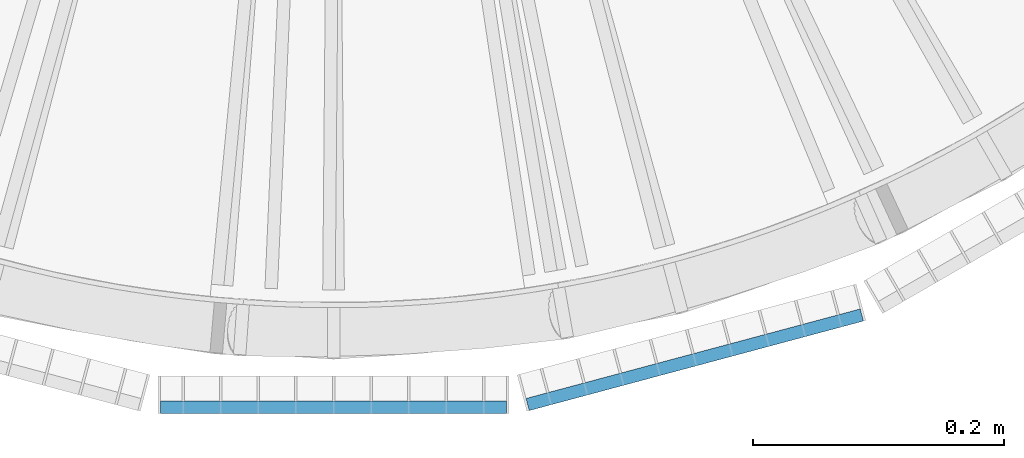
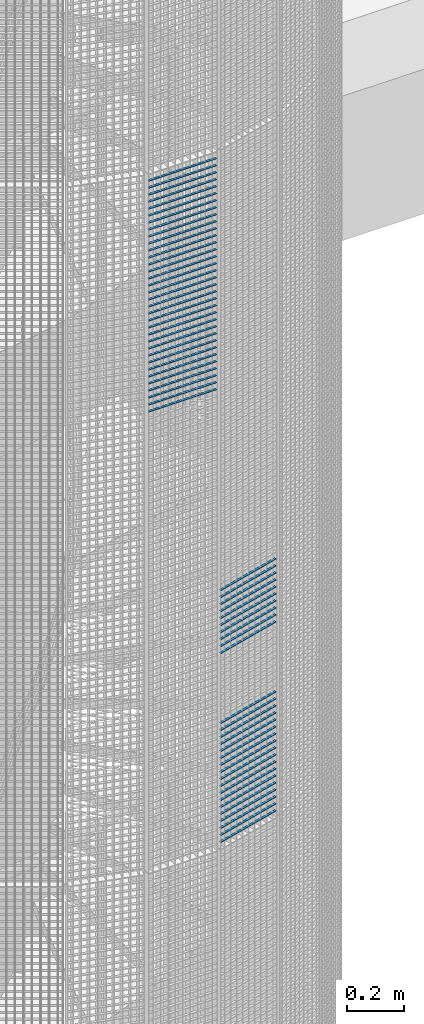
# One storey, part 156 of 1183: 62 beams, 2 elements without a shape of their own.
"""IFC2X3 building model written with IfcOpenShell, lengths in millimetres."""

from ifc_helpers import new_model, si_unit, frame, origin_with_axes, origin_2d_with_axis, place, context, subcontext, project, spatial, rectangle, extrude, material, type_object, element, aggregate, save


model = new_model("IFC2X3")

# Units and contexts
model_context = context("Model", 3, precision=1e-05, world=origin_with_axes())
body_context = subcontext(model_context, "Body", "Model", "MODEL_VIEW")
ifc_project = project(units=[si_unit("LENGTHUNIT", "METRE", prefix="MILLI"), si_unit("AREAUNIT", "SQUARE_METRE"), si_unit("VOLUMEUNIT", "CUBIC_METRE"), si_unit("MASSUNIT", "GRAM", prefix="KILO"), si_unit("TIMEUNIT", "SECOND"), si_unit("PLANEANGLEUNIT", "RADIAN"), si_unit("SOLIDANGLEUNIT", "STERADIAN"), si_unit("THERMODYNAMICTEMPERATUREUNIT", "DEGREE_CELSIUS"), si_unit("LUMINOUSINTENSITYUNIT", "LUMEN")], contexts=[model_context])

# Site, building, storey
site_placement = place(None, origin_with_axes())
site = spatial("IfcSite", under=ifc_project, at=site_placement, Name="Undefined", CompositionType="ELEMENT")
building_placement = place(site_placement, origin_with_axes())
building = spatial("IfcBuilding", under=site, at=building_placement, Name="Undefined", CompositionType="ELEMENT")
storey_placement = place(building_placement, origin_with_axes())
storey = spatial("IfcBuildingStorey", under=building, at=storey_placement, Name="Undefined", CompositionType="ELEMENT", Elevation=0.0)

# Assembly, beams
assembly_1_placement = place(storey_placement, origin_with_axes())
assembly_1 = element("IfcElementAssembly", 1, at=assembly_1_placement, inside=storey, Name="BORDURE", AssemblyPlace="NOTDEFINED", PredefinedType="NOTDEFINED")
ifc_material = material(Name="STEEL/S235JR")
beam_type = type_object("IfcBeamType", Name="PL2*10", PredefinedType="NOTDEFINED")
beam_1_placement = place(assembly_1_placement, frame((154.895926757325, -1111.25508286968, 6540.0), z_axis=(0.258819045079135, -0.965925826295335, 0.0), x_axis=(0.965925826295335, 0.258819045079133, 0.0)))
beam_1 = element("IfcBeam", 2, at=beam_1_placement, type_object=beam_type, material=ifc_material, Name="ENTRETOISE", context=body_context, shape_type="SweptSolid", body=[
    extrude(rectangle(XDim=2.0, YDim=10.0, at=origin_2d_with_axis()), frame((275.999999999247, 9.09494701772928e-13, 1.53210777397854e-14), z_axis=(-1.0, 0.0, 0.0), x_axis=(0.0, -1.0, 0.0)), (0.0, 0.0, 1.0), 276.0),
])
beam_2_placement = place(assembly_1_placement, frame((154.895926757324, -1111.25508286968, 6840.0), z_axis=(0.258819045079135, -0.965925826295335, 0.0), x_axis=(0.965925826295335, 0.258819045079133, 0.0)))
beam_2 = element("IfcBeam", 3, at=beam_2_placement, type_object=beam_type, material=ifc_material, Name="ENTRETOISE", context=body_context, shape_type="SweptSolid", body=[
    extrude(rectangle(XDim=2.0, YDim=10.0, at=origin_2d_with_axis()), frame((275.999999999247, 9.09494701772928e-13, 1.53210777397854e-14), z_axis=(-1.0, 0.0, 0.0), x_axis=(0.0, -1.0, 0.0)), (0.0, 0.0, 1.0), 276.0),
])
beam_3_placement = place(assembly_1_placement, frame((154.895926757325, -1111.25508286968, 6510.0), z_axis=(0.258819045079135, -0.965925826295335, 0.0), x_axis=(0.965925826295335, 0.258819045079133, 0.0)))
beam_3 = element("IfcBeam", 4, at=beam_3_placement, type_object=beam_type, material=ifc_material, Name="ENTRETOISE", context=body_context, shape_type="SweptSolid", body=[
    extrude(rectangle(XDim=2.0, YDim=10.0, at=origin_2d_with_axis()), frame((275.999999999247, 9.09494701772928e-13, 1.53210777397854e-14), z_axis=(-1.0, 0.0, 0.0), x_axis=(0.0, -1.0, 0.0)), (0.0, 0.0, 1.0), 276.0),
])
beam_4_placement = place(assembly_1_placement, frame((154.895926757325, -1111.25508286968, 6480.0), z_axis=(0.258819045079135, -0.965925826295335, 0.0), x_axis=(0.965925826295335, 0.258819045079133, 0.0)))
beam_4 = element("IfcBeam", 5, at=beam_4_placement, type_object=beam_type, material=ifc_material, Name="ENTRETOISE", context=body_context, shape_type="SweptSolid", body=[
    extrude(rectangle(XDim=2.0, YDim=10.0, at=origin_2d_with_axis()), frame((275.999999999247, 9.09494701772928e-13, 1.53210777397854e-14), z_axis=(-1.0, 0.0, 0.0), x_axis=(0.0, -1.0, 0.0)), (0.0, 0.0, 1.0), 276.0),
])
beam_5_placement = place(assembly_1_placement, frame((154.895926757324, -1111.25508286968, 6870.0), z_axis=(0.258819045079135, -0.965925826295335, 0.0), x_axis=(0.965925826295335, 0.258819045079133, 0.0)))
beam_5 = element("IfcBeam", 6, at=beam_5_placement, type_object=beam_type, material=ifc_material, Name="ENTRETOISE", context=body_context, shape_type="SweptSolid", body=[
    extrude(rectangle(XDim=2.0, YDim=10.0, at=origin_2d_with_axis()), frame((275.999999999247, 9.09494701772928e-13, 1.53210777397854e-14), z_axis=(-1.0, 0.0, 0.0), x_axis=(0.0, -1.0, 0.0)), (0.0, 0.0, 1.0), 276.0),
])
beam_6_placement = place(assembly_1_placement, frame((154.895926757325, -1111.25508286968, 6450.0), z_axis=(0.258819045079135, -0.965925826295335, 0.0), x_axis=(0.965925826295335, 0.258819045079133, 0.0)))
beam_6 = element("IfcBeam", 7, at=beam_6_placement, type_object=beam_type, material=ifc_material, Name="ENTRETOISE", context=body_context, shape_type="SweptSolid", body=[
    extrude(rectangle(XDim=2.0, YDim=10.0, at=origin_2d_with_axis()), frame((275.999999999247, 9.09494701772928e-13, 1.53210777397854e-14), z_axis=(-1.0, 0.0, 0.0), x_axis=(0.0, -1.0, 0.0)), (0.0, 0.0, 1.0), 276.0),
])
beam_7_placement = place(assembly_1_placement, frame((154.895926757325, -1111.25508286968, 6420.0), z_axis=(0.258819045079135, -0.965925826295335, 0.0), x_axis=(0.965925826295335, 0.258819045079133, 0.0)))
beam_7 = element("IfcBeam", 8, at=beam_7_placement, type_object=beam_type, material=ifc_material, Name="ENTRETOISE", context=body_context, shape_type="SweptSolid", body=[
    extrude(rectangle(XDim=2.0, YDim=10.0, at=origin_2d_with_axis()), frame((275.999999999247, 9.09494701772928e-13, 1.53210777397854e-14), z_axis=(-1.0, 0.0, 0.0), x_axis=(0.0, -1.0, 0.0)), (0.0, 0.0, 1.0), 276.0),
])
beam_8_placement = place(assembly_1_placement, frame((154.895926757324, -1111.25508286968, 6900.0), z_axis=(0.258819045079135, -0.965925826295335, 0.0), x_axis=(0.965925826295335, 0.258819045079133, 0.0)))
beam_8 = element("IfcBeam", 9, at=beam_8_placement, type_object=beam_type, material=ifc_material, Name="ENTRETOISE", context=body_context, shape_type="SweptSolid", body=[
    extrude(rectangle(XDim=2.0, YDim=10.0, at=origin_2d_with_axis()), frame((275.999999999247, 9.09494701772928e-13, 1.53210777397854e-14), z_axis=(-1.0, 0.0, 0.0), x_axis=(0.0, -1.0, 0.0)), (0.0, 0.0, 1.0), 276.0),
])
beam_9_placement = place(assembly_1_placement, frame((154.895926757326, -1111.25508286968, 6390.0), z_axis=(0.258819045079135, -0.965925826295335, 0.0), x_axis=(0.965925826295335, 0.258819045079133, 0.0)))
beam_9 = element("IfcBeam", 10, at=beam_9_placement, type_object=beam_type, material=ifc_material, Name="ENTRETOISE", context=body_context, shape_type="SweptSolid", body=[
    extrude(rectangle(XDim=2.0, YDim=10.0, at=origin_2d_with_axis()), frame((275.999999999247, 9.09494701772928e-13, 1.53210777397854e-14), z_axis=(-1.0, 0.0, 0.0), x_axis=(0.0, -1.0, 0.0)), (0.0, 0.0, 1.0), 276.0),
])
beam_10_placement = place(assembly_1_placement, frame((154.895926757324, -1111.25508286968, 6930.0), z_axis=(0.258819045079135, -0.965925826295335, 0.0), x_axis=(0.965925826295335, 0.258819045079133, 0.0)))
beam_10 = element("IfcBeam", 11, at=beam_10_placement, type_object=beam_type, material=ifc_material, Name="ENTRETOISE", context=body_context, shape_type="SweptSolid", body=[
    extrude(rectangle(XDim=2.0, YDim=10.0, at=origin_2d_with_axis()), frame((275.999999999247, 9.09494701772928e-13, 1.53210777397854e-14), z_axis=(-1.0, 0.0, 0.0), x_axis=(0.0, -1.0, 0.0)), (0.0, 0.0, 1.0), 276.0),
])
beam_11_placement = place(assembly_1_placement, frame((154.895926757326, -1111.25508286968, 6360.0), z_axis=(0.258819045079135, -0.965925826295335, 0.0), x_axis=(0.965925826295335, 0.258819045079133, 0.0)))
beam_11 = element("IfcBeam", 12, at=beam_11_placement, type_object=beam_type, material=ifc_material, Name="ENTRETOISE", context=body_context, shape_type="SweptSolid", body=[
    extrude(rectangle(XDim=2.0, YDim=10.0, at=origin_2d_with_axis()), frame((275.999999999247, 9.09494701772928e-13, 1.53210777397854e-14), z_axis=(-1.0, 0.0, 0.0), x_axis=(0.0, -1.0, 0.0)), (0.0, 0.0, 1.0), 276.0),
])
beam_12_placement = place(assembly_1_placement, frame((154.895926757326, -1111.25508286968, 6330.0), z_axis=(0.258819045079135, -0.965925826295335, 0.0), x_axis=(0.965925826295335, 0.258819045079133, 0.0)))
beam_12 = element("IfcBeam", 13, at=beam_12_placement, type_object=beam_type, material=ifc_material, Name="ENTRETOISE", context=body_context, shape_type="SweptSolid", body=[
    extrude(rectangle(XDim=2.0, YDim=10.0, at=origin_2d_with_axis()), frame((275.999999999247, 9.09494701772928e-13, 1.53210777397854e-14), z_axis=(-1.0, 0.0, 0.0), x_axis=(0.0, -1.0, 0.0)), (0.0, 0.0, 1.0), 276.0),
])
beam_13_placement = place(assembly_1_placement, frame((154.895926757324, -1111.25508286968, 6960.0), z_axis=(0.258819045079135, -0.965925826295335, 0.0), x_axis=(0.965925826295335, 0.258819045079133, 0.0)))
beam_13 = element("IfcBeam", 14, at=beam_13_placement, type_object=beam_type, material=ifc_material, Name="ENTRETOISE", context=body_context, shape_type="SweptSolid", body=[
    extrude(rectangle(XDim=2.0, YDim=10.0, at=origin_2d_with_axis()), frame((275.999999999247, 9.09494701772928e-13, 1.53210777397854e-14), z_axis=(-1.0, 0.0, 0.0), x_axis=(0.0, -1.0, 0.0)), (0.0, 0.0, 1.0), 276.0),
])
beam_14_placement = place(assembly_1_placement, frame((154.895926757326, -1111.25508286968, 6300.0), z_axis=(0.258819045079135, -0.965925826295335, 0.0), x_axis=(0.965925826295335, 0.258819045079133, 0.0)))
beam_14 = element("IfcBeam", 15, at=beam_14_placement, type_object=beam_type, material=ifc_material, Name="ENTRETOISE", context=body_context, shape_type="SweptSolid", body=[
    extrude(rectangle(XDim=2.0, YDim=10.0, at=origin_2d_with_axis()), frame((275.999999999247, 9.09494701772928e-13, 1.53210777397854e-14), z_axis=(-1.0, 0.0, 0.0), x_axis=(0.0, -1.0, 0.0)), (0.0, 0.0, 1.0), 276.0),
])
beam_15_placement = place(assembly_1_placement, frame((154.895926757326, -1111.25508286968, 6270.0), z_axis=(0.258819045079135, -0.965925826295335, 0.0), x_axis=(0.965925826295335, 0.258819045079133, 0.0)))
beam_15 = element("IfcBeam", 16, at=beam_15_placement, type_object=beam_type, material=ifc_material, Name="ENTRETOISE", context=body_context, shape_type="SweptSolid", body=[
    extrude(rectangle(XDim=2.0, YDim=10.0, at=origin_2d_with_axis()), frame((275.999999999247, 9.09494701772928e-13, 1.53210777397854e-14), z_axis=(-1.0, 0.0, 0.0), x_axis=(0.0, -1.0, 0.0)), (0.0, 0.0, 1.0), 276.0),
])
beam_16_placement = place(assembly_1_placement, frame((154.895926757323, -1111.25508286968, 6990.0), z_axis=(0.258819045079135, -0.965925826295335, 0.0), x_axis=(0.965925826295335, 0.258819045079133, 0.0)))
beam_16 = element("IfcBeam", 17, at=beam_16_placement, type_object=beam_type, material=ifc_material, Name="ENTRETOISE", context=body_context, shape_type="SweptSolid", body=[
    extrude(rectangle(XDim=2.0, YDim=10.0, at=origin_2d_with_axis()), frame((275.999999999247, 9.09494701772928e-13, 1.53210777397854e-14), z_axis=(-1.0, 0.0, 0.0), x_axis=(0.0, -1.0, 0.0)), (0.0, 0.0, 1.0), 276.0),
])
beam_17_placement = place(assembly_1_placement, frame((154.895926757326, -1111.25508286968, 6240.0), z_axis=(0.258819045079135, -0.965925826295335, 0.0), x_axis=(0.965925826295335, 0.258819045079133, 0.0)))
beam_17 = element("IfcBeam", 18, at=beam_17_placement, type_object=beam_type, material=ifc_material, Name="ENTRETOISE", context=body_context, shape_type="SweptSolid", body=[
    extrude(rectangle(XDim=2.0, YDim=10.0, at=origin_2d_with_axis()), frame((275.999999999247, 9.09494701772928e-13, 1.53210777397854e-14), z_axis=(-1.0, 0.0, 0.0), x_axis=(0.0, -1.0, 0.0)), (0.0, 0.0, 1.0), 276.0),
])
beam_18_placement = place(assembly_1_placement, frame((154.895926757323, -1111.25508286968, 7020.0), z_axis=(0.258819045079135, -0.965925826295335, 0.0), x_axis=(0.965925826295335, 0.258819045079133, 0.0)))
beam_18 = element("IfcBeam", 19, at=beam_18_placement, type_object=beam_type, material=ifc_material, Name="ENTRETOISE", context=body_context, shape_type="SweptSolid", body=[
    extrude(rectangle(XDim=2.0, YDim=10.0, at=origin_2d_with_axis()), frame((275.999999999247, 9.09494701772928e-13, 1.53210777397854e-14), z_axis=(-1.0, 0.0, 0.0), x_axis=(0.0, -1.0, 0.0)), (0.0, 0.0, 1.0), 276.0),
])
beam_19_placement = place(assembly_1_placement, frame((154.895926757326, -1111.25508286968, 6210.0), z_axis=(0.258819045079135, -0.965925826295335, 0.0), x_axis=(0.965925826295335, 0.258819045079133, 0.0)))
beam_19 = element("IfcBeam", 20, at=beam_19_placement, type_object=beam_type, material=ifc_material, Name="ENTRETOISE", context=body_context, shape_type="SweptSolid", body=[
    extrude(rectangle(XDim=2.0, YDim=10.0, at=origin_2d_with_axis()), frame((275.999999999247, 9.09494701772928e-13, 1.53210777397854e-14), z_axis=(-1.0, 0.0, 0.0), x_axis=(0.0, -1.0, 0.0)), (0.0, 0.0, 1.0), 276.0),
])
beam_20_placement = place(assembly_1_placement, frame((154.895926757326, -1111.25508286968, 6180.0), z_axis=(0.258819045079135, -0.965925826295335, 0.0), x_axis=(0.965925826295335, 0.258819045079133, 0.0)))
beam_20 = element("IfcBeam", 21, at=beam_20_placement, type_object=beam_type, material=ifc_material, Name="ENTRETOISE", context=body_context, shape_type="SweptSolid", body=[
    extrude(rectangle(XDim=2.0, YDim=10.0, at=origin_2d_with_axis()), frame((275.999999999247, 9.09494701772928e-13, 1.53210777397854e-14), z_axis=(-1.0, 0.0, 0.0), x_axis=(0.0, -1.0, 0.0)), (0.0, 0.0, 1.0), 276.0),
])
beam_21_placement = place(assembly_1_placement, frame((154.895926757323, -1111.25508286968, 7050.0), z_axis=(0.258819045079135, -0.965925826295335, 0.0), x_axis=(0.965925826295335, 0.258819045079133, 0.0)))
beam_21 = element("IfcBeam", 22, at=beam_21_placement, type_object=beam_type, material=ifc_material, Name="ENTRETOISE", context=body_context, shape_type="SweptSolid", body=[
    extrude(rectangle(XDim=2.0, YDim=10.0, at=origin_2d_with_axis()), frame((275.999999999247, 9.09494701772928e-13, 1.53210777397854e-14), z_axis=(-1.0, 0.0, 0.0), x_axis=(0.0, -1.0, 0.0)), (0.0, 0.0, 1.0), 276.0),
])
beam_22_placement = place(assembly_1_placement, frame((154.895926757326, -1111.25508286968, 6150.0), z_axis=(0.258819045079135, -0.965925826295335, 0.0), x_axis=(0.965925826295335, 0.258819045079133, 0.0)))
beam_22 = element("IfcBeam", 23, at=beam_22_placement, type_object=beam_type, material=ifc_material, Name="ENTRETOISE", context=body_context, shape_type="SweptSolid", body=[
    extrude(rectangle(XDim=2.0, YDim=10.0, at=origin_2d_with_axis()), frame((275.999999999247, 9.09494701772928e-13, 1.53210777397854e-14), z_axis=(-1.0, 0.0, 0.0), x_axis=(0.0, -1.0, 0.0)), (0.0, 0.0, 1.0), 276.0),
])
beam_23_placement = place(assembly_1_placement, frame((154.895926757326, -1111.25508286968, 6120.0), z_axis=(0.258819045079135, -0.965925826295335, 0.0), x_axis=(0.965925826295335, 0.258819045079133, 0.0)))
beam_23 = element("IfcBeam", 24, at=beam_23_placement, type_object=beam_type, material=ifc_material, Name="ENTRETOISE", context=body_context, shape_type="SweptSolid", body=[
    extrude(rectangle(XDim=2.0, YDim=10.0, at=origin_2d_with_axis()), frame((275.999999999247, 9.09494701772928e-13, 1.53210777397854e-14), z_axis=(-1.0, 0.0, 0.0), x_axis=(0.0, -1.0, 0.0)), (0.0, 0.0, 1.0), 276.0),
])
beam_24_placement = place(assembly_1_placement, frame((154.895926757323, -1111.25508286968, 7080.0), z_axis=(0.258819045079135, -0.965925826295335, 0.0), x_axis=(0.965925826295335, 0.258819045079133, 0.0)))
beam_24 = element("IfcBeam", 25, at=beam_24_placement, type_object=beam_type, material=ifc_material, Name="ENTRETOISE", context=body_context, shape_type="SweptSolid", body=[
    extrude(rectangle(XDim=2.0, YDim=10.0, at=origin_2d_with_axis()), frame((275.999999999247, 9.09494701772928e-13, 1.53210777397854e-14), z_axis=(-1.0, 0.0, 0.0), x_axis=(0.0, -1.0, 0.0)), (0.0, 0.0, 1.0), 276.0),
])
beam_25_placement = place(assembly_1_placement, frame((154.895926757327, -1111.25508286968, 6090.0), z_axis=(0.258819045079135, -0.965925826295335, 0.0), x_axis=(0.965925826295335, 0.258819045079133, 0.0)))
beam_25 = element("IfcBeam", 26, at=beam_25_placement, type_object=beam_type, material=ifc_material, Name="ENTRETOISE", context=body_context, shape_type="SweptSolid", body=[
    extrude(rectangle(XDim=2.0, YDim=10.0, at=origin_2d_with_axis()), frame((275.999999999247, 9.09494701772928e-13, 1.53210777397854e-14), z_axis=(-1.0, 0.0, 0.0), x_axis=(0.0, -1.0, 0.0)), (0.0, 0.0, 1.0), 276.0),
])
beam_26_placement = place(assembly_1_placement, frame((154.895926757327, -1111.25508286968, 6060.0), z_axis=(0.258819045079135, -0.965925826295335, 0.0), x_axis=(0.965925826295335, 0.258819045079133, 0.0)))
beam_26 = element("IfcBeam", 27, at=beam_26_placement, type_object=beam_type, material=ifc_material, Name="ENTRETOISE", context=body_context, shape_type="SweptSolid", body=[
    extrude(rectangle(XDim=2.0, YDim=10.0, at=origin_2d_with_axis()), frame((275.999999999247, 9.09494701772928e-13, 1.53210777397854e-14), z_axis=(-1.0, 0.0, 0.0), x_axis=(0.0, -1.0, 0.0)), (0.0, 0.0, 1.0), 276.0),
])
beam_27_placement = place(assembly_1_placement, frame((154.895926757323, -1111.25508286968, 7110.0), z_axis=(0.258819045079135, -0.965925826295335, 0.0), x_axis=(0.965925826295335, 0.258819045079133, 0.0)))
beam_27 = element("IfcBeam", 28, at=beam_27_placement, type_object=beam_type, material=ifc_material, Name="ENTRETOISE", context=body_context, shape_type="SweptSolid", body=[
    extrude(rectangle(XDim=2.0, YDim=10.0, at=origin_2d_with_axis()), frame((275.999999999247, 9.09494701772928e-13, 1.53210777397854e-14), z_axis=(-1.0, 0.0, 0.0), x_axis=(0.0, -1.0, 0.0)), (0.0, 0.0, 1.0), 276.0),
])
beam_28_placement = place(assembly_1_placement, frame((154.895926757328, -1111.25508286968, 6030.0), z_axis=(0.258819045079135, -0.965925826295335, 0.0), x_axis=(0.965925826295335, 0.258819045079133, 0.0)))
beam_28 = element("IfcBeam", 29, at=beam_28_placement, type_object=beam_type, material=ifc_material, Name="ENTRETOISE", context=body_context, shape_type="SweptSolid", body=[
    extrude(rectangle(XDim=2.0, YDim=10.0, at=origin_2d_with_axis()), frame((275.999999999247, 9.09494701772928e-13, 1.53210777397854e-14), z_axis=(-1.0, 0.0, 0.0), x_axis=(0.0, -1.0, 0.0)), (0.0, 0.0, 1.0), 276.0),
])
aggregate(assembly_1, [beam_1, beam_2, beam_3, beam_4, beam_5, beam_6, beam_7, beam_8, beam_9, beam_10, beam_11, beam_12, beam_13, beam_14, beam_15, beam_16, beam_17, beam_18, beam_19, beam_20, beam_21, beam_22, beam_23, beam_24, beam_25, beam_26, beam_27, beam_28])

assembly_2_placement = place(storey_placement, origin_with_axes())
assembly_2 = element("IfcElementAssembly", 30, at=assembly_2_placement, inside=storey, Name="BORDURE", AssemblyPlace="NOTDEFINED", PredefinedType="NOTDEFINED")
beam_29_placement = place(assembly_2_placement, frame((-137.996003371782, -1113.47999999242, 8970.0), z_axis=(0.0, -1.0, 0.0), x_axis=(1.0, 0.0, 0.0)))
beam_29 = element("IfcBeam", 31, at=beam_29_placement, type_object=beam_type, material=ifc_material, Name="ENTRETOISE", context=body_context, shape_type="SweptSolid", body=[
    extrude(rectangle(XDim=2.0, YDim=10.0, at=origin_2d_with_axis()), frame((275.999999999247, 9.09494701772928e-13, 1.53210777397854e-14), z_axis=(-1.0, 0.0, 0.0), x_axis=(0.0, -1.0, 0.0)), (0.0, 0.0, 1.0), 276.0),
])
beam_30_placement = place(assembly_2_placement, frame((-137.996003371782, -1113.47999999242, 8940.0), z_axis=(0.0, -1.0, 0.0), x_axis=(1.0, 0.0, 0.0)))
beam_30 = element("IfcBeam", 32, at=beam_30_placement, type_object=beam_type, material=ifc_material, Name="ENTRETOISE", context=body_context, shape_type="SweptSolid", body=[
    extrude(rectangle(XDim=2.0, YDim=10.0, at=origin_2d_with_axis()), frame((275.999999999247, 9.09494701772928e-13, 1.53210777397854e-14), z_axis=(-1.0, 0.0, 0.0), x_axis=(0.0, -1.0, 0.0)), (0.0, 0.0, 1.0), 276.0),
])
beam_31_placement = place(assembly_2_placement, frame((-137.996003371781, -1113.47999999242, 8910.0), z_axis=(0.0, -1.0, 0.0), x_axis=(1.0, 0.0, 0.0)))
beam_31 = element("IfcBeam", 33, at=beam_31_placement, type_object=beam_type, material=ifc_material, Name="ENTRETOISE", context=body_context, shape_type="SweptSolid", body=[
    extrude(rectangle(XDim=2.0, YDim=10.0, at=origin_2d_with_axis()), frame((275.999999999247, 9.09494701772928e-13, 1.53210777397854e-14), z_axis=(-1.0, 0.0, 0.0), x_axis=(0.0, -1.0, 0.0)), (0.0, 0.0, 1.0), 276.0),
])
beam_32_placement = place(assembly_2_placement, frame((-137.996003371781, -1113.47999999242, 8880.0), z_axis=(0.0, -1.0, 0.0), x_axis=(1.0, 0.0, 0.0)))
beam_32 = element("IfcBeam", 34, at=beam_32_placement, type_object=beam_type, material=ifc_material, Name="ENTRETOISE", context=body_context, shape_type="SweptSolid", body=[
    extrude(rectangle(XDim=2.0, YDim=10.0, at=origin_2d_with_axis()), frame((275.999999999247, 9.09494701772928e-13, 1.53210777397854e-14), z_axis=(-1.0, 0.0, 0.0), x_axis=(0.0, -1.0, 0.0)), (0.0, 0.0, 1.0), 276.0),
])
beam_33_placement = place(assembly_2_placement, frame((-137.996003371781, -1113.47999999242, 8850.0), z_axis=(0.0, -1.0, 0.0), x_axis=(1.0, 0.0, 0.0)))
beam_33 = element("IfcBeam", 35, at=beam_33_placement, type_object=beam_type, material=ifc_material, Name="ENTRETOISE", context=body_context, shape_type="SweptSolid", body=[
    extrude(rectangle(XDim=2.0, YDim=10.0, at=origin_2d_with_axis()), frame((275.999999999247, 9.09494701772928e-13, 1.53210777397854e-14), z_axis=(-1.0, 0.0, 0.0), x_axis=(0.0, -1.0, 0.0)), (0.0, 0.0, 1.0), 276.0),
])
beam_34_placement = place(assembly_2_placement, frame((-137.996003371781, -1113.47999999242, 8820.0), z_axis=(0.0, -1.0, 0.0), x_axis=(1.0, 0.0, 0.0)))
beam_34 = element("IfcBeam", 36, at=beam_34_placement, type_object=beam_type, material=ifc_material, Name="ENTRETOISE", context=body_context, shape_type="SweptSolid", body=[
    extrude(rectangle(XDim=2.0, YDim=10.0, at=origin_2d_with_axis()), frame((275.999999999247, 9.09494701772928e-13, 1.53210777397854e-14), z_axis=(-1.0, 0.0, 0.0), x_axis=(0.0, -1.0, 0.0)), (0.0, 0.0, 1.0), 276.0),
])
beam_35_placement = place(assembly_2_placement, frame((-137.996003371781, -1113.47999999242, 8790.0), z_axis=(0.0, -1.0, 0.0), x_axis=(1.0, 0.0, 0.0)))
beam_35 = element("IfcBeam", 37, at=beam_35_placement, type_object=beam_type, material=ifc_material, Name="ENTRETOISE", context=body_context, shape_type="SweptSolid", body=[
    extrude(rectangle(XDim=2.0, YDim=10.0, at=origin_2d_with_axis()), frame((275.999999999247, 9.09494701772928e-13, 1.53210777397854e-14), z_axis=(-1.0, 0.0, 0.0), x_axis=(0.0, -1.0, 0.0)), (0.0, 0.0, 1.0), 276.0),
])
beam_36_placement = place(assembly_2_placement, frame((-137.996003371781, -1113.47999999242, 8760.0), z_axis=(0.0, -1.0, 0.0), x_axis=(1.0, 0.0, 0.0)))
beam_36 = element("IfcBeam", 38, at=beam_36_placement, type_object=beam_type, material=ifc_material, Name="ENTRETOISE", context=body_context, shape_type="SweptSolid", body=[
    extrude(rectangle(XDim=2.0, YDim=10.0, at=origin_2d_with_axis()), frame((275.999999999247, 9.09494701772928e-13, 1.53210777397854e-14), z_axis=(-1.0, 0.0, 0.0), x_axis=(0.0, -1.0, 0.0)), (0.0, 0.0, 1.0), 276.0),
])
beam_37_placement = place(assembly_2_placement, frame((-137.996003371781, -1113.47999999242, 8730.0), z_axis=(0.0, -1.0, 0.0), x_axis=(1.0, 0.0, 0.0)))
beam_37 = element("IfcBeam", 39, at=beam_37_placement, type_object=beam_type, material=ifc_material, Name="ENTRETOISE", context=body_context, shape_type="SweptSolid", body=[
    extrude(rectangle(XDim=2.0, YDim=10.0, at=origin_2d_with_axis()), frame((275.999999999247, 9.09494701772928e-13, 1.53210777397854e-14), z_axis=(-1.0, 0.0, 0.0), x_axis=(0.0, -1.0, 0.0)), (0.0, 0.0, 1.0), 276.0),
])
beam_38_placement = place(assembly_2_placement, frame((-137.996003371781, -1113.47999999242, 8700.0), z_axis=(0.0, -1.0, 0.0), x_axis=(1.0, 0.0, 0.0)))
beam_38 = element("IfcBeam", 40, at=beam_38_placement, type_object=beam_type, material=ifc_material, Name="ENTRETOISE", context=body_context, shape_type="SweptSolid", body=[
    extrude(rectangle(XDim=2.0, YDim=10.0, at=origin_2d_with_axis()), frame((275.999999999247, 9.09494701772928e-13, 1.53210777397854e-14), z_axis=(-1.0, 0.0, 0.0), x_axis=(0.0, -1.0, 0.0)), (0.0, 0.0, 1.0), 276.0),
])
beam_39_placement = place(assembly_2_placement, frame((-137.996003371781, -1113.47999999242, 8670.0), z_axis=(0.0, -1.0, 0.0), x_axis=(1.0, 0.0, 0.0)))
beam_39 = element("IfcBeam", 41, at=beam_39_placement, type_object=beam_type, material=ifc_material, Name="ENTRETOISE", context=body_context, shape_type="SweptSolid", body=[
    extrude(rectangle(XDim=2.0, YDim=10.0, at=origin_2d_with_axis()), frame((275.999999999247, 9.09494701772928e-13, 1.53210777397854e-14), z_axis=(-1.0, 0.0, 0.0), x_axis=(0.0, -1.0, 0.0)), (0.0, 0.0, 1.0), 276.0),
])
beam_40_placement = place(assembly_2_placement, frame((-137.996003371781, -1113.47999999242, 8640.0), z_axis=(0.0, -1.0, 0.0), x_axis=(1.0, 0.0, 0.0)))
beam_40 = element("IfcBeam", 42, at=beam_40_placement, type_object=beam_type, material=ifc_material, Name="ENTRETOISE", context=body_context, shape_type="SweptSolid", body=[
    extrude(rectangle(XDim=2.0, YDim=10.0, at=origin_2d_with_axis()), frame((275.999999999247, 9.09494701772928e-13, 1.53210777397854e-14), z_axis=(-1.0, 0.0, 0.0), x_axis=(0.0, -1.0, 0.0)), (0.0, 0.0, 1.0), 276.0),
])
beam_41_placement = place(assembly_2_placement, frame((-137.99600337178, -1113.47999999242, 8610.0), z_axis=(0.0, -1.0, 0.0), x_axis=(1.0, 0.0, 0.0)))
beam_41 = element("IfcBeam", 43, at=beam_41_placement, type_object=beam_type, material=ifc_material, Name="ENTRETOISE", context=body_context, shape_type="SweptSolid", body=[
    extrude(rectangle(XDim=2.0, YDim=10.0, at=origin_2d_with_axis()), frame((275.999999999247, 9.09494701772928e-13, 1.53210777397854e-14), z_axis=(-1.0, 0.0, 0.0), x_axis=(0.0, -1.0, 0.0)), (0.0, 0.0, 1.0), 276.0),
])
beam_42_placement = place(assembly_2_placement, frame((-137.99600337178, -1113.47999999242, 8580.0), z_axis=(0.0, -1.0, 0.0), x_axis=(1.0, 0.0, 0.0)))
beam_42 = element("IfcBeam", 44, at=beam_42_placement, type_object=beam_type, material=ifc_material, Name="ENTRETOISE", context=body_context, shape_type="SweptSolid", body=[
    extrude(rectangle(XDim=2.0, YDim=10.0, at=origin_2d_with_axis()), frame((275.999999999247, 9.09494701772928e-13, 1.53210777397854e-14), z_axis=(-1.0, 0.0, 0.0), x_axis=(0.0, -1.0, 0.0)), (0.0, 0.0, 1.0), 276.0),
])
beam_43_placement = place(assembly_2_placement, frame((-137.99600337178, -1113.47999999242, 8550.0), z_axis=(0.0, -1.0, 0.0), x_axis=(1.0, 0.0, 0.0)))
beam_43 = element("IfcBeam", 45, at=beam_43_placement, type_object=beam_type, material=ifc_material, Name="ENTRETOISE", context=body_context, shape_type="SweptSolid", body=[
    extrude(rectangle(XDim=2.0, YDim=10.0, at=origin_2d_with_axis()), frame((275.999999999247, 9.09494701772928e-13, 1.53210777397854e-14), z_axis=(-1.0, 0.0, 0.0), x_axis=(0.0, -1.0, 0.0)), (0.0, 0.0, 1.0), 276.0),
])
beam_44_placement = place(assembly_2_placement, frame((-137.99600337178, -1113.47999999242, 8520.0), z_axis=(0.0, -1.0, 0.0), x_axis=(1.0, 0.0, 0.0)))
beam_44 = element("IfcBeam", 46, at=beam_44_placement, type_object=beam_type, material=ifc_material, Name="ENTRETOISE", context=body_context, shape_type="SweptSolid", body=[
    extrude(rectangle(XDim=2.0, YDim=10.0, at=origin_2d_with_axis()), frame((275.999999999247, 9.09494701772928e-13, 1.53210777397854e-14), z_axis=(-1.0, 0.0, 0.0), x_axis=(0.0, -1.0, 0.0)), (0.0, 0.0, 1.0), 276.0),
])
beam_45_placement = place(assembly_2_placement, frame((-137.99600337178, -1113.47999999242, 8490.0), z_axis=(0.0, -1.0, 0.0), x_axis=(1.0, 0.0, 0.0)))
beam_45 = element("IfcBeam", 47, at=beam_45_placement, type_object=beam_type, material=ifc_material, Name="ENTRETOISE", context=body_context, shape_type="SweptSolid", body=[
    extrude(rectangle(XDim=2.0, YDim=10.0, at=origin_2d_with_axis()), frame((275.999999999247, 9.09494701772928e-13, 1.53210777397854e-14), z_axis=(-1.0, 0.0, 0.0), x_axis=(0.0, -1.0, 0.0)), (0.0, 0.0, 1.0), 276.0),
])
beam_46_placement = place(assembly_2_placement, frame((-137.99600337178, -1113.47999999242, 8460.0), z_axis=(0.0, -1.0, 0.0), x_axis=(1.0, 0.0, 0.0)))
beam_46 = element("IfcBeam", 48, at=beam_46_placement, type_object=beam_type, material=ifc_material, Name="ENTRETOISE", context=body_context, shape_type="SweptSolid", body=[
    extrude(rectangle(XDim=2.0, YDim=10.0, at=origin_2d_with_axis()), frame((275.999999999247, 9.09494701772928e-13, 1.53210777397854e-14), z_axis=(-1.0, 0.0, 0.0), x_axis=(0.0, -1.0, 0.0)), (0.0, 0.0, 1.0), 276.0),
])
beam_47_placement = place(assembly_2_placement, frame((-137.99600337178, -1113.47999999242, 8430.0), z_axis=(0.0, -1.0, 0.0), x_axis=(1.0, 0.0, 0.0)))
beam_47 = element("IfcBeam", 49, at=beam_47_placement, type_object=beam_type, material=ifc_material, Name="ENTRETOISE", context=body_context, shape_type="SweptSolid", body=[
    extrude(rectangle(XDim=2.0, YDim=10.0, at=origin_2d_with_axis()), frame((275.999999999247, 9.09494701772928e-13, 1.53210777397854e-14), z_axis=(-1.0, 0.0, 0.0), x_axis=(0.0, -1.0, 0.0)), (0.0, 0.0, 1.0), 276.0),
])
beam_48_placement = place(assembly_2_placement, frame((-137.99600337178, -1113.47999999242, 8400.0), z_axis=(0.0, -1.0, 0.0), x_axis=(1.0, 0.0, 0.0)))
beam_48 = element("IfcBeam", 50, at=beam_48_placement, type_object=beam_type, material=ifc_material, Name="ENTRETOISE", context=body_context, shape_type="SweptSolid", body=[
    extrude(rectangle(XDim=2.0, YDim=10.0, at=origin_2d_with_axis()), frame((275.999999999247, 9.09494701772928e-13, 1.53210777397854e-14), z_axis=(-1.0, 0.0, 0.0), x_axis=(0.0, -1.0, 0.0)), (0.0, 0.0, 1.0), 276.0),
])
beam_49_placement = place(assembly_2_placement, frame((-137.99600337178, -1113.47999999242, 8370.0), z_axis=(0.0, -1.0, 0.0), x_axis=(1.0, 0.0, 0.0)))
beam_49 = element("IfcBeam", 51, at=beam_49_placement, type_object=beam_type, material=ifc_material, Name="ENTRETOISE", context=body_context, shape_type="SweptSolid", body=[
    extrude(rectangle(XDim=2.0, YDim=10.0, at=origin_2d_with_axis()), frame((275.999999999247, 9.09494701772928e-13, 1.53210777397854e-14), z_axis=(-1.0, 0.0, 0.0), x_axis=(0.0, -1.0, 0.0)), (0.0, 0.0, 1.0), 276.0),
])
beam_50_placement = place(assembly_2_placement, frame((-137.99600337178, -1113.47999999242, 8340.0), z_axis=(0.0, -1.0, 0.0), x_axis=(1.0, 0.0, 0.0)))
beam_50 = element("IfcBeam", 52, at=beam_50_placement, type_object=beam_type, material=ifc_material, Name="ENTRETOISE", context=body_context, shape_type="SweptSolid", body=[
    extrude(rectangle(XDim=2.0, YDim=10.0, at=origin_2d_with_axis()), frame((275.999999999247, 9.09494701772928e-13, 1.53210777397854e-14), z_axis=(-1.0, 0.0, 0.0), x_axis=(0.0, -1.0, 0.0)), (0.0, 0.0, 1.0), 276.0),
])
beam_51_placement = place(assembly_2_placement, frame((-137.996003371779, -1113.47999999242, 8310.0), z_axis=(0.0, -1.0, 0.0), x_axis=(1.0, 0.0, 0.0)))
beam_51 = element("IfcBeam", 53, at=beam_51_placement, type_object=beam_type, material=ifc_material, Name="ENTRETOISE", context=body_context, shape_type="SweptSolid", body=[
    extrude(rectangle(XDim=2.0, YDim=10.0, at=origin_2d_with_axis()), frame((275.999999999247, 9.09494701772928e-13, 1.53210777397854e-14), z_axis=(-1.0, 0.0, 0.0), x_axis=(0.0, -1.0, 0.0)), (0.0, 0.0, 1.0), 276.0),
])
beam_52_placement = place(assembly_2_placement, frame((-137.996003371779, -1113.47999999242, 8280.0), z_axis=(0.0, -1.0, 0.0), x_axis=(1.0, 0.0, 0.0)))
beam_52 = element("IfcBeam", 54, at=beam_52_placement, type_object=beam_type, material=ifc_material, Name="ENTRETOISE", context=body_context, shape_type="SweptSolid", body=[
    extrude(rectangle(XDim=2.0, YDim=10.0, at=origin_2d_with_axis()), frame((275.999999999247, 9.09494701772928e-13, 1.53210777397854e-14), z_axis=(-1.0, 0.0, 0.0), x_axis=(0.0, -1.0, 0.0)), (0.0, 0.0, 1.0), 276.0),
])
beam_53_placement = place(assembly_2_placement, frame((-137.996003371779, -1113.47999999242, 8250.0), z_axis=(0.0, -1.0, 0.0), x_axis=(1.0, 0.0, 0.0)))
beam_53 = element("IfcBeam", 55, at=beam_53_placement, type_object=beam_type, material=ifc_material, Name="ENTRETOISE", context=body_context, shape_type="SweptSolid", body=[
    extrude(rectangle(XDim=2.0, YDim=10.0, at=origin_2d_with_axis()), frame((275.999999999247, 9.09494701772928e-13, 1.53210777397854e-14), z_axis=(-1.0, 0.0, 0.0), x_axis=(0.0, -1.0, 0.0)), (0.0, 0.0, 1.0), 276.0),
])
beam_54_placement = place(assembly_2_placement, frame((-137.996003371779, -1113.47999999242, 8220.0), z_axis=(0.0, -1.0, 0.0), x_axis=(1.0, 0.0, 0.0)))
beam_54 = element("IfcBeam", 56, at=beam_54_placement, type_object=beam_type, material=ifc_material, Name="ENTRETOISE", context=body_context, shape_type="SweptSolid", body=[
    extrude(rectangle(XDim=2.0, YDim=10.0, at=origin_2d_with_axis()), frame((275.999999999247, 9.09494701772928e-13, 1.53210777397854e-14), z_axis=(-1.0, 0.0, 0.0), x_axis=(0.0, -1.0, 0.0)), (0.0, 0.0, 1.0), 276.0),
])
beam_55_placement = place(assembly_2_placement, frame((-137.996003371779, -1113.47999999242, 8190.0), z_axis=(0.0, -1.0, 0.0), x_axis=(1.0, 0.0, 0.0)))
beam_55 = element("IfcBeam", 57, at=beam_55_placement, type_object=beam_type, material=ifc_material, Name="ENTRETOISE", context=body_context, shape_type="SweptSolid", body=[
    extrude(rectangle(XDim=2.0, YDim=10.0, at=origin_2d_with_axis()), frame((275.999999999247, 9.09494701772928e-13, 1.53210777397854e-14), z_axis=(-1.0, 0.0, 0.0), x_axis=(0.0, -1.0, 0.0)), (0.0, 0.0, 1.0), 276.0),
])
beam_56_placement = place(assembly_2_placement, frame((-137.996003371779, -1113.47999999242, 8160.0), z_axis=(0.0, -1.0, 0.0), x_axis=(1.0, 0.0, 0.0)))
beam_56 = element("IfcBeam", 58, at=beam_56_placement, type_object=beam_type, material=ifc_material, Name="ENTRETOISE", context=body_context, shape_type="SweptSolid", body=[
    extrude(rectangle(XDim=2.0, YDim=10.0, at=origin_2d_with_axis()), frame((275.999999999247, 9.09494701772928e-13, 1.53210777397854e-14), z_axis=(-1.0, 0.0, 0.0), x_axis=(0.0, -1.0, 0.0)), (0.0, 0.0, 1.0), 276.0),
])
beam_57_placement = place(assembly_2_placement, frame((-137.996003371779, -1113.47999999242, 8130.0), z_axis=(0.0, -1.0, 0.0), x_axis=(1.0, 0.0, 0.0)))
beam_57 = element("IfcBeam", 59, at=beam_57_placement, type_object=beam_type, material=ifc_material, Name="ENTRETOISE", context=body_context, shape_type="SweptSolid", body=[
    extrude(rectangle(XDim=2.0, YDim=10.0, at=origin_2d_with_axis()), frame((275.999999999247, 9.09494701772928e-13, 1.53210777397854e-14), z_axis=(-1.0, 0.0, 0.0), x_axis=(0.0, -1.0, 0.0)), (0.0, 0.0, 1.0), 276.0),
])
beam_58_placement = place(assembly_2_placement, frame((-137.996003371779, -1113.47999999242, 8100.0), z_axis=(0.0, -1.0, 0.0), x_axis=(1.0, 0.0, 0.0)))
beam_58 = element("IfcBeam", 60, at=beam_58_placement, type_object=beam_type, material=ifc_material, Name="ENTRETOISE", context=body_context, shape_type="SweptSolid", body=[
    extrude(rectangle(XDim=2.0, YDim=10.0, at=origin_2d_with_axis()), frame((275.999999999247, 9.09494701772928e-13, 1.53210777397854e-14), z_axis=(-1.0, 0.0, 0.0), x_axis=(0.0, -1.0, 0.0)), (0.0, 0.0, 1.0), 276.0),
])
beam_59_placement = place(assembly_2_placement, frame((-137.996003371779, -1113.47999999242, 8070.0), z_axis=(0.0, -1.0, 0.0), x_axis=(1.0, 0.0, 0.0)))
beam_59 = element("IfcBeam", 61, at=beam_59_placement, type_object=beam_type, material=ifc_material, Name="ENTRETOISE", context=body_context, shape_type="SweptSolid", body=[
    extrude(rectangle(XDim=2.0, YDim=10.0, at=origin_2d_with_axis()), frame((275.999999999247, 9.09494701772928e-13, 1.53210777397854e-14), z_axis=(-1.0, 0.0, 0.0), x_axis=(0.0, -1.0, 0.0)), (0.0, 0.0, 1.0), 276.0),
])
beam_60_placement = place(assembly_2_placement, frame((-137.996003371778, -1113.47999999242, 8040.0), z_axis=(0.0, -1.0, 0.0), x_axis=(1.0, 0.0, 0.0)))
beam_60 = element("IfcBeam", 62, at=beam_60_placement, type_object=beam_type, material=ifc_material, Name="ENTRETOISE", context=body_context, shape_type="SweptSolid", body=[
    extrude(rectangle(XDim=2.0, YDim=10.0, at=origin_2d_with_axis()), frame((275.999999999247, 9.09494701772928e-13, 1.53210777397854e-14), z_axis=(-1.0, 0.0, 0.0), x_axis=(0.0, -1.0, 0.0)), (0.0, 0.0, 1.0), 276.0),
])
beam_61_placement = place(assembly_2_placement, frame((-137.996003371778, -1113.47999999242, 8010.0), z_axis=(0.0, -1.0, 0.0), x_axis=(1.0, 0.0, 0.0)))
beam_61 = element("IfcBeam", 63, at=beam_61_placement, type_object=beam_type, material=ifc_material, Name="ENTRETOISE", context=body_context, shape_type="SweptSolid", body=[
    extrude(rectangle(XDim=2.0, YDim=10.0, at=origin_2d_with_axis()), frame((275.999999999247, 9.09494701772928e-13, 1.53210777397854e-14), z_axis=(-1.0, 0.0, 0.0), x_axis=(0.0, -1.0, 0.0)), (0.0, 0.0, 1.0), 276.0),
])
beam_62_placement = place(assembly_2_placement, frame((-137.996003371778, -1113.47999999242, 7980.0), z_axis=(0.0, -1.0, 0.0), x_axis=(1.0, 0.0, 0.0)))
beam_62 = element("IfcBeam", 64, at=beam_62_placement, type_object=beam_type, material=ifc_material, Name="ENTRETOISE", context=body_context, shape_type="SweptSolid", body=[
    extrude(rectangle(XDim=2.0, YDim=10.0, at=origin_2d_with_axis()), frame((275.999999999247, 9.09494701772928e-13, 1.53210777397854e-14), z_axis=(-1.0, 0.0, 0.0), x_axis=(0.0, -1.0, 0.0)), (0.0, 0.0, 1.0), 276.0),
])
aggregate(assembly_2, [beam_29, beam_30, beam_31, beam_32, beam_33, beam_34, beam_35, beam_36, beam_37, beam_38, beam_39, beam_40, beam_41, beam_42, beam_43, beam_44, beam_45, beam_46, beam_47, beam_48, beam_49, beam_50, beam_51, beam_52, beam_53, beam_54, beam_55, beam_56, beam_57, beam_58, beam_59, beam_60, beam_61, beam_62])

save(model, "model.ifc")
